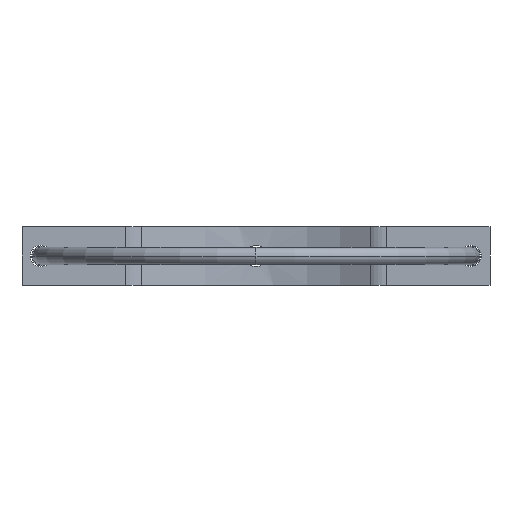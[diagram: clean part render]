
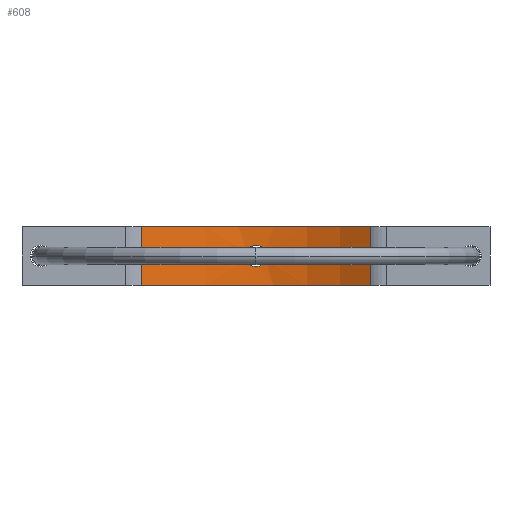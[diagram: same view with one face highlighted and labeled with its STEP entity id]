
A CAD part, front view. The second image highlights one B-rep face of the part: STEP entity #608.
In plain terms, the highlighted cylindrical face has radius 104 mm (diameter 208 mm), a partial arc.
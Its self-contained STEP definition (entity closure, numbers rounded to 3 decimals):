
#40=CARTESIAN_POINT('',(0.,29.889,15.));
#41=DIRECTION('',(0.,0.,-1.));
#42=DIRECTION('',(-0.567,0.824,0.));
#43=AXIS2_PLACEMENT_3D('',#40,#41,#42);
#88=CARTESIAN_POINT('',(0.,133.889,-5.5));
#89=CARTESIAN_POINT('',(-0.492,133.889,-5.5));
#90=CARTESIAN_POINT('',(-1.437,133.882,-5.367));
#91=CARTESIAN_POINT('',(-2.771,133.854,-4.817));
#92=CARTESIAN_POINT('',(-3.914,133.817,-3.954));
#93=CARTESIAN_POINT('',(-4.792,133.779,-2.817));
#94=CARTESIAN_POINT('',(-5.361,133.75,-1.471));
#95=CARTESIAN_POINT('',(-5.568,133.739,-0.011));
#96=CARTESIAN_POINT('',(-5.367,133.75,1.452));
#97=CARTESIAN_POINT('',(-4.8,133.779,2.805));
#98=CARTESIAN_POINT('',(-3.92,133.816,3.949));
#99=CARTESIAN_POINT('',(-2.767,133.854,4.817));
#100=CARTESIAN_POINT('',(-1.424,133.882,5.369));
#101=CARTESIAN_POINT('',(-0.486,133.889,5.5));
#102=CARTESIAN_POINT('',(0.,133.889,5.5));
#107=CARTESIAN_POINT('',(0.,133.889,5.5));
#108=CARTESIAN_POINT('',(0.494,133.889,5.5));
#109=CARTESIAN_POINT('',(1.443,133.882,5.368));
#110=CARTESIAN_POINT('',(2.792,133.854,4.807));
#111=CARTESIAN_POINT('',(3.943,133.815,3.927));
#112=CARTESIAN_POINT('',(4.817,133.778,2.774));
#113=CARTESIAN_POINT('',(5.38,133.75,1.407));
#114=CARTESIAN_POINT('',(5.565,133.74,-0.028));
#115=CARTESIAN_POINT('',(5.358,133.751,-1.464));
#116=CARTESIAN_POINT('',(4.786,133.779,-2.82));
#117=CARTESIAN_POINT('',(3.902,133.817,-3.968));
#118=CARTESIAN_POINT('',(2.75,133.855,-4.832));
#119=CARTESIAN_POINT('',(1.415,133.882,-5.373));
#120=CARTESIAN_POINT('',(0.483,133.889,-5.5));
#121=CARTESIAN_POINT('',(0.,133.889,-5.5));
#126=DIRECTION('',(0.,0.,-1.));
#127=VECTOR('',#126,30.);
#128=CARTESIAN_POINT('',(-58.996,115.536,15.));
#129=LINE('',#128,#127);
#280=CARTESIAN_POINT('',(0.,29.889,-15.));
#281=DIRECTION('',(0.,0.,1.));
#282=DIRECTION('',(0.567,0.824,0.));
#283=AXIS2_PLACEMENT_3D('',#280,#281,#282);
#377=DIRECTION('',(0.,0.,-1.));
#378=VECTOR('',#377,30.);
#379=CARTESIAN_POINT('',(58.996,115.536,15.));
#380=LINE('',#379,#378);
#479=CARTESIAN_POINT('',(-58.996,115.536,15.));
#480=CARTESIAN_POINT('',(58.996,115.536,15.));
#481=VERTEX_POINT('',#479);
#482=VERTEX_POINT('',#480);
#483=CARTESIAN_POINT('',(-58.996,115.536,-15.));
#484=VERTEX_POINT('',#483);
#485=CARTESIAN_POINT('',(58.996,115.536,-15.));
#486=VERTEX_POINT('',#485);
#512=CARTESIAN_POINT('',(0.,133.889,-5.5));
#514=VERTEX_POINT('',#512);
#516=CARTESIAN_POINT('',(0.,133.889,5.5));
#518=VERTEX_POINT('',#516);
#588=CARTESIAN_POINT('',(0.,29.889,-15.));
#589=DIRECTION('',(0.,0.,1.));
#590=DIRECTION('',(1.,0.,0.));
#591=AXIS2_PLACEMENT_3D('',#588,#589,#590);
#592=CYLINDRICAL_SURFACE('',#591,104.);
#593=ORIENTED_EDGE('',*,*,#562,.T.);
#595=ORIENTED_EDGE('',*,*,#594,.T.);
#597=ORIENTED_EDGE('',*,*,#596,.T.);
#599=ORIENTED_EDGE('',*,*,#598,.F.);
#600=EDGE_LOOP('',(#593,#595,#597,#599));
#601=FACE_OUTER_BOUND('',#600,.F.);
#603=ORIENTED_EDGE('',*,*,#602,.F.);
#605=ORIENTED_EDGE('',*,*,#604,.F.);
#606=EDGE_LOOP('',(#603,#605));
#607=FACE_BOUND('',#606,.F.);
#44=CIRCLE('',#43,104.);
#103=B_SPLINE_CURVE_WITH_KNOTS('',3,(#88,#89,#90,#91,#92,#93,#94,#95,#96,#97,
#98,#99,#100,#101,#102),.UNSPECIFIED.,.F.,.F.,(4,1,1,1,1,1,1,1,1,1,1,1,4),(0.,
0.083,0.167,0.25,0.333,0.417,
0.5,0.583,0.667,0.75,0.833,
0.917,1.),.UNSPECIFIED.);
#122=B_SPLINE_CURVE_WITH_KNOTS('',3,(#107,#108,#109,#110,#111,#112,#113,#114,
#115,#116,#117,#118,#119,#120,#121),.UNSPECIFIED.,.F.,.F.,(4,1,1,1,1,1,1,1,1,1,
1,1,4),(0.,0.083,0.167,0.25,0.333,
0.417,0.5,0.583,0.667,0.75,
0.833,0.917,1.),.UNSPECIFIED.);
#284=CIRCLE('',#283,104.);
#562=EDGE_CURVE('',#481,#482,#44,.T.);
#594=EDGE_CURVE('',#482,#486,#380,.T.);
#596=EDGE_CURVE('',#486,#484,#284,.T.);
#598=EDGE_CURVE('',#481,#484,#129,.T.);
#602=EDGE_CURVE('',#514,#518,#103,.T.);
#604=EDGE_CURVE('',#518,#514,#122,.T.);
#608=ADVANCED_FACE('',(#601,#607),#592,.F.);
